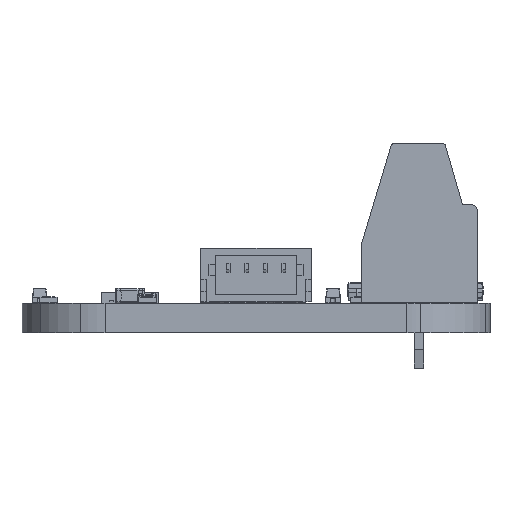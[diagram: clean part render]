
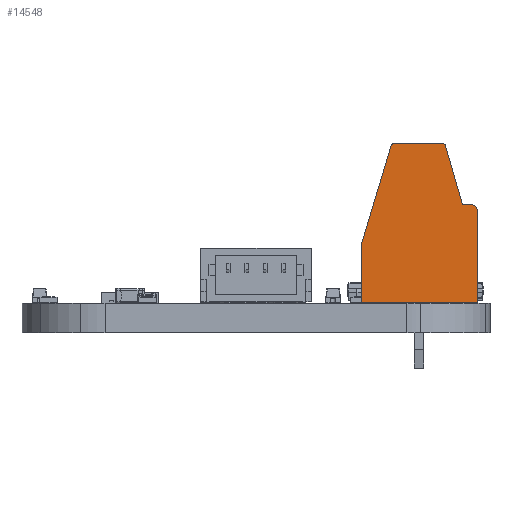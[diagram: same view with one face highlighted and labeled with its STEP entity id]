
A CAD part, left-side view. The second image highlights one B-rep face of the part: STEP entity #14548.
In plain terms, the highlighted planar face has unit normal (-1, 0, 0) as drawn and (0, 0, -1) by its records, which use the part's own axes.
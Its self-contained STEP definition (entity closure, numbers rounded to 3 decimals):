
#14126 = VERTEX_POINT('',#14127);
#14127 = CARTESIAN_POINT('',(0.04,-0.05,-6.59));
#14133 = EDGE_CURVE('',#14126,#14134,#14136,.T.);
#14134 = VERTEX_POINT('',#14135);
#14135 = CARTESIAN_POINT('',(0.04,4.95,-6.59));
#14136 = LINE('',#14137,#14138);
#14137 = CARTESIAN_POINT('',(0.04,-0.05,-6.59));
#14138 = VECTOR('',#14139,1.);
#14139 = DIRECTION('',(0.,1.,0.));
#14293 = VERTEX_POINT('',#14294);
#14294 = CARTESIAN_POINT('',(6.34,-0.05,-6.59));
#14300 = EDGE_CURVE('',#14293,#14126,#14301,.T.);
#14301 = LINE('',#14302,#14303);
#14302 = CARTESIAN_POINT('',(6.34,-0.05,-6.59));
#14303 = VECTOR('',#14304,1.);
#14304 = DIRECTION('',(-1.,0.,0.));
#14460 = VERTEX_POINT('',#14461);
#14461 = CARTESIAN_POINT('',(6.34,3.05,-6.59));
#14467 = EDGE_CURVE('',#14460,#14293,#14468,.T.);
#14468 = LINE('',#14469,#14470);
#14469 = CARTESIAN_POINT('',(6.34,3.05,-6.59));
#14470 = VECTOR('',#14471,1.);
#14471 = DIRECTION('',(0.,-1.,0.));
#14491 = VERTEX_POINT('',#14492);
#14492 = CARTESIAN_POINT('',(4.706,8.479,
    -6.59));
#14498 = EDGE_CURVE('',#14491,#14460,#14499,.T.);
#14499 = LINE('',#14500,#14501);
#14500 = CARTESIAN_POINT('',(4.706,8.479,
    -6.59));
#14501 = VECTOR('',#14502,1.);
#14502 = DIRECTION('',(0.288,-0.958,
    0.));
#14520 = VERTEX_POINT('',#14521);
#14521 = CARTESIAN_POINT('',(4.61,8.55,-6.59));
#14537 = EDGE_CURVE('',#14520,#14491,#14538,.T.);
#14538 = CIRCLE('',#14539,0.1);
#14539 = AXIS2_PLACEMENT_3D('',#14540,#14541,#14542);
#14540 = CARTESIAN_POINT('',(4.61,8.45,-6.59));
#14541 = DIRECTION('',(0.,0.,-1.));
#14542 = DIRECTION('',(0.,1.,0.));
#14548 = ADVANCED_FACE('',(#14549),#14596,.F.);
#14549 = FACE_BOUND('',#14550,.F.);
#14550 = EDGE_LOOP('',(#14551,#14552,#14553,#14554,#14555,#14556,#14564,
    #14573,#14581,#14589));
#14551 = ORIENTED_EDGE('',*,*,#14133,.F.);
#14552 = ORIENTED_EDGE('',*,*,#14300,.F.);
#14553 = ORIENTED_EDGE('',*,*,#14467,.F.);
#14554 = ORIENTED_EDGE('',*,*,#14498,.F.);
#14555 = ORIENTED_EDGE('',*,*,#14537,.F.);
#14556 = ORIENTED_EDGE('',*,*,#14557,.F.);
#14557 = EDGE_CURVE('',#14558,#14520,#14560,.T.);
#14558 = VERTEX_POINT('',#14559);
#14559 = CARTESIAN_POINT('',(1.865,8.55,-6.59));
#14560 = LINE('',#14561,#14562);
#14561 = CARTESIAN_POINT('',(1.865,8.55,-6.59));
#14562 = VECTOR('',#14563,1.);
#14563 = DIRECTION('',(1.,0.,0.));
#14564 = ORIENTED_EDGE('',*,*,#14565,.F.);
#14565 = EDGE_CURVE('',#14566,#14558,#14568,.T.);
#14566 = VERTEX_POINT('',#14567);
#14567 = CARTESIAN_POINT('',(1.769,8.478,
    -6.59));
#14568 = CIRCLE('',#14569,0.1);
#14569 = AXIS2_PLACEMENT_3D('',#14570,#14571,#14572);
#14570 = CARTESIAN_POINT('',(1.865,8.45,-6.59));
#14571 = DIRECTION('',(0.,0.,-1.));
#14572 = DIRECTION('',(-0.961,0.277,0.));
#14573 = ORIENTED_EDGE('',*,*,#14574,.F.);
#14574 = EDGE_CURVE('',#14575,#14566,#14577,.T.);
#14575 = VERTEX_POINT('',#14576);
#14576 = CARTESIAN_POINT('',(0.84,5.25,
    -6.59));
#14577 = LINE('',#14578,#14579);
#14578 = CARTESIAN_POINT('',(0.84,5.25,
    -6.59));
#14579 = VECTOR('',#14580,1.);
#14580 = DIRECTION('',(0.277,0.961,0.
    ));
#14581 = ORIENTED_EDGE('',*,*,#14582,.F.);
#14582 = EDGE_CURVE('',#14583,#14575,#14585,.T.);
#14583 = VERTEX_POINT('',#14584);
#14584 = CARTESIAN_POINT('',(0.34,5.25,-6.59));
#14585 = LINE('',#14586,#14587);
#14586 = CARTESIAN_POINT('',(0.34,5.25,-6.59));
#14587 = VECTOR('',#14588,1.);
#14588 = DIRECTION('',(1.,0.,0.));
#14589 = ORIENTED_EDGE('',*,*,#14590,.F.);
#14590 = EDGE_CURVE('',#14134,#14583,#14591,.T.);
#14591 = CIRCLE('',#14592,0.3);
#14592 = AXIS2_PLACEMENT_3D('',#14593,#14594,#14595);
#14593 = CARTESIAN_POINT('',(0.34,4.95,-6.59));
#14594 = DIRECTION('',(0.,0.,-1.));
#14595 = DIRECTION('',(-1.,0.,0.));
#14596 = PLANE('',#14597);
#14597 = AXIS2_PLACEMENT_3D('',#14598,#14599,#14600);
#14598 = CARTESIAN_POINT('',(-0.591,-0.05,-6.59));
#14599 = DIRECTION('',(0.,0.,1.));
#14600 = DIRECTION('',(1.,0.,-0.));
